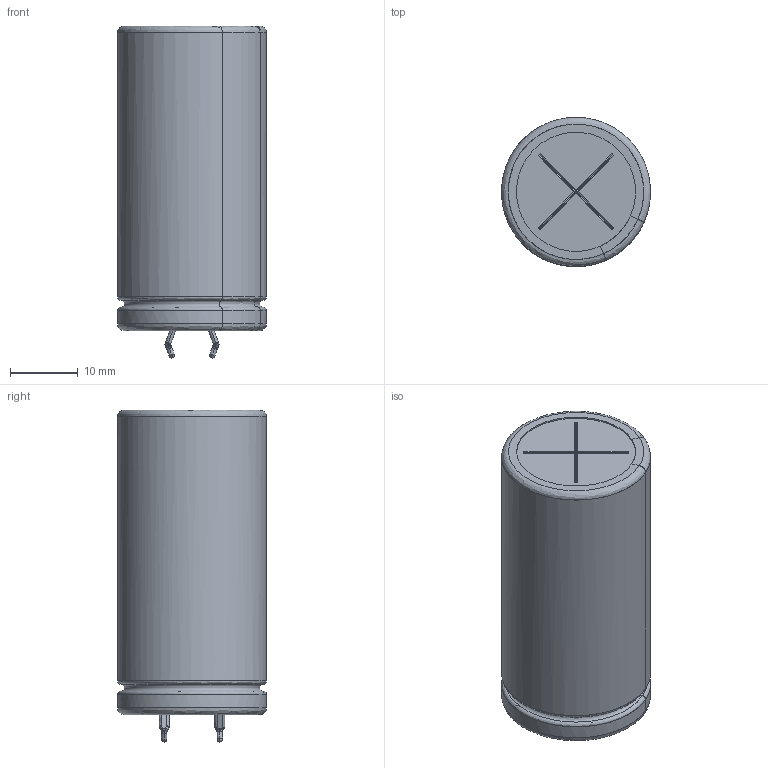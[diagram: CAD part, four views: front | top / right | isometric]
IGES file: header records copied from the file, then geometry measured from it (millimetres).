
Start section: JAMA-IS VERSION  1.0
Bounding box: 21.99 x 21.99 x 49.02 mm (x, y, z)
Surface area: 10718.2 mm2 (no closed solid volume)
Topology: 0 solids, 0 shells, 208 faces, 2178 edges, 2142 vertices
Faces by surface type: bspline 208
